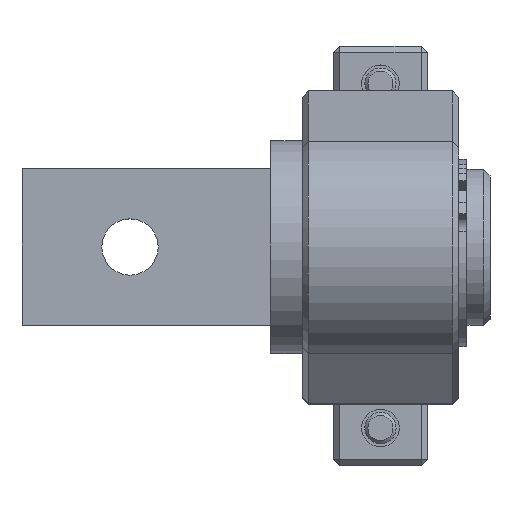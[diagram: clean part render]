
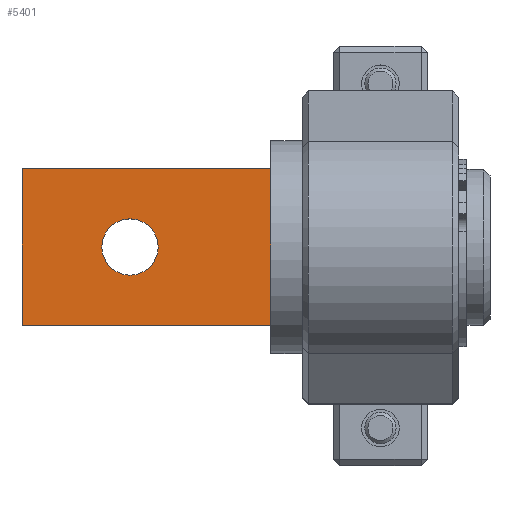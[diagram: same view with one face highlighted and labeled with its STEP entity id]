
A CAD part, top view. The second image highlights one B-rep face of the part: STEP entity #5401.
In plain terms, the highlighted planar face has unit normal (0, 0, 1) as drawn and (-1, 0, 0) by its records, which use the part's own axes.
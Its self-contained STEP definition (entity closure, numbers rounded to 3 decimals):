
#764=LINE('',#12163,#1182);
#766=LINE('',#12169,#1184);
#767=LINE('',#12171,#1185);
#768=LINE('',#12173,#1186);
#1182=VECTOR('',#7626,1000.);
#1184=VECTOR('',#7632,1000.);
#1185=VECTOR('',#7633,1000.);
#1186=VECTOR('',#7634,1000.);
#2447=ORIENTED_EDGE('',*,*,#3117,.T.);
#2448=ORIENTED_EDGE('',*,*,#3118,.T.);
#2449=ORIENTED_EDGE('',*,*,#3119,.F.);
#2450=ORIENTED_EDGE('',*,*,#3120,.F.);
#2451=ORIENTED_EDGE('',*,*,#3115,.T.);
#3115=EDGE_CURVE('',#3561,#3560,#764,.T.);
#3117=EDGE_CURVE('',#3562,#3562,#3755,.T.);
#3118=EDGE_CURVE('',#3560,#3563,#766,.T.);
#3119=EDGE_CURVE('',#3564,#3563,#767,.T.);
#3120=EDGE_CURVE('',#3561,#3564,#768,.T.);
#3560=VERTEX_POINT('',#12162);
#3561=VERTEX_POINT('',#12164);
#3562=VERTEX_POINT('',#12168);
#3563=VERTEX_POINT('',#12170);
#3564=VERTEX_POINT('',#12172);
#3755=CIRCLE('',#6079,4.5);
#4268=EDGE_LOOP('',(#2447));
#4269=EDGE_LOOP('',(#2448,#2449,#2450,#2451));
#4795=FACE_BOUND('',#4268,.T.);
#4796=FACE_BOUND('',#4269,.T.);
#5047=PLANE('',#6078);
#5401=ADVANCED_FACE('',(#4795,#4796),#5047,.F.);
#6078=AXIS2_PLACEMENT_3D('',#12166,#7628,#7629);
#6079=AXIS2_PLACEMENT_3D('',#12167,#7630,#7631);
#7626=DIRECTION('',(0.,0.,-1.));
#7628=DIRECTION('',(1.,0.,0.));
#7629=DIRECTION('',(0.,0.,-1.));
#7630=DIRECTION('',(1.,0.,0.));
#7631=DIRECTION('',(0.,0.,-1.));
#7632=DIRECTION('',(0.,-1.,0.));
#7633=DIRECTION('',(0.,0.,-1.));
#7634=DIRECTION('',(0.,-1.,0.));
#12162=CARTESIAN_POINT('',(-47.138,42.961,0.));
#12163=CARTESIAN_POINT('',(-47.138,42.961,25.));
#12164=CARTESIAN_POINT('',(-47.138,42.961,25.));
#12166=CARTESIAN_POINT('',(-47.138,42.961,25.));
#12167=CARTESIAN_POINT('',(-47.138,20.461,12.5));
#12168=CARTESIAN_POINT('',(-47.138,20.461,8.));
#12169=CARTESIAN_POINT('',(-47.138,42.961,0.));
#12170=CARTESIAN_POINT('',(-47.138,3.211,0.));
#12171=CARTESIAN_POINT('',(-47.138,3.211,25.));
#12172=CARTESIAN_POINT('',(-47.138,3.211,25.));
#12173=CARTESIAN_POINT('',(-47.138,42.961,25.));
